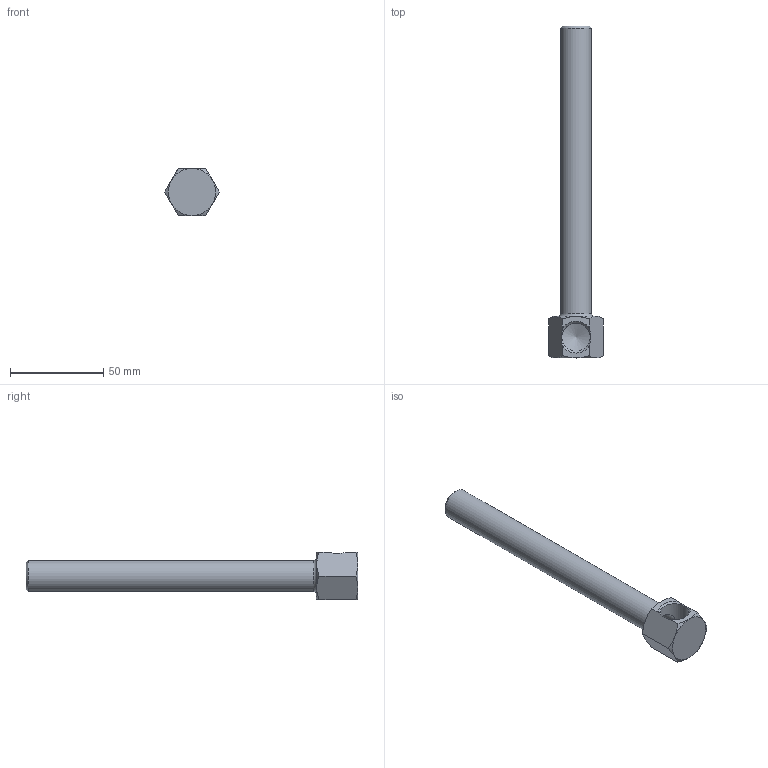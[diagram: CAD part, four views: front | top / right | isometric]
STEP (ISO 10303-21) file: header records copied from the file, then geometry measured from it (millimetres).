
FILE_DESCRIPTION(/* description */ (''),/* implementation_level */ '2;1');
FILE_NAME(/* name */ 'C:/Users/drich/Desktop/38B-7 v1.step',/* time_stamp */ '2019-12-29T15:23:47-06:00',/* author */ (''),/* organization */ (''),/* preprocessor_version */ 'ST-DEVELOPER v18',/* originating_system */ 'Autodesk Translation Framework v8.12.0.6',/* authorisation */ '');
FILE_SCHEMA (('AUTOMOTIVE_DESIGN { 1 0 10303 214 3 1 1 }'));
Length unit declared in the file: inch
Products named in the file (1): 38B-7
Bounding box: 29.33 x 177.8 x 25.4 mm (x, y, z)
Volume: 24414 mm3; surface area: 17661.9 mm2
Topology: 1 solids, 1 shells, 20 faces, 53 edges, 35 vertices
Faces by surface type: plane 10, cone 6, cylinder 3, torus 1
Full cylindrical faces by diameter (mm): 11.887 x1, 15.173 x1, 16.537 x1
Entity records: 687 total; most frequent: CARTESIAN_POINT 184, ORIENTED_EDGE 104, DIRECTION 91, EDGE_CURVE 52, AXIS2_PLACEMENT_3D 37, VERTEX_POINT 35, EDGE_LOOP 23, FACE_OUTER_BOUND 20
